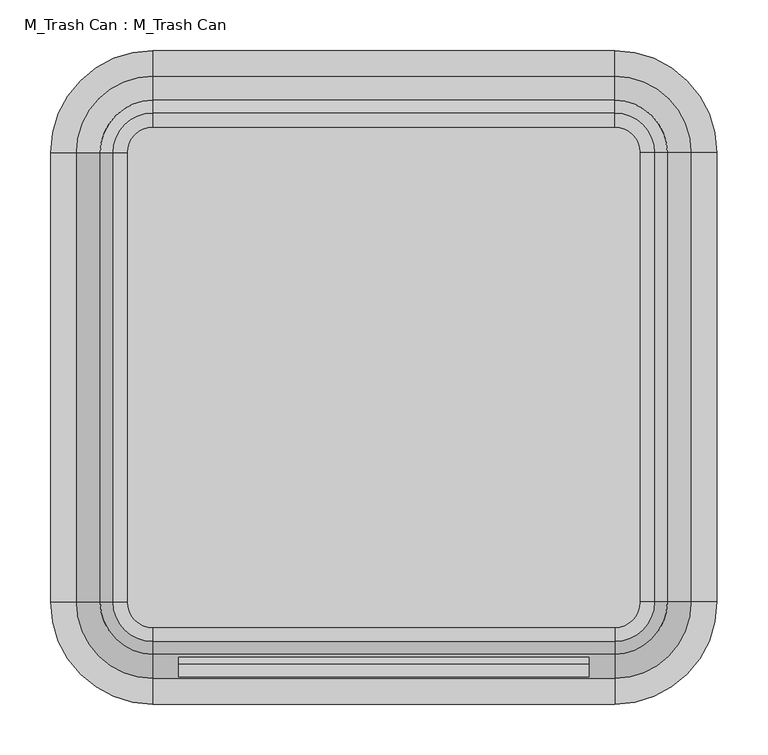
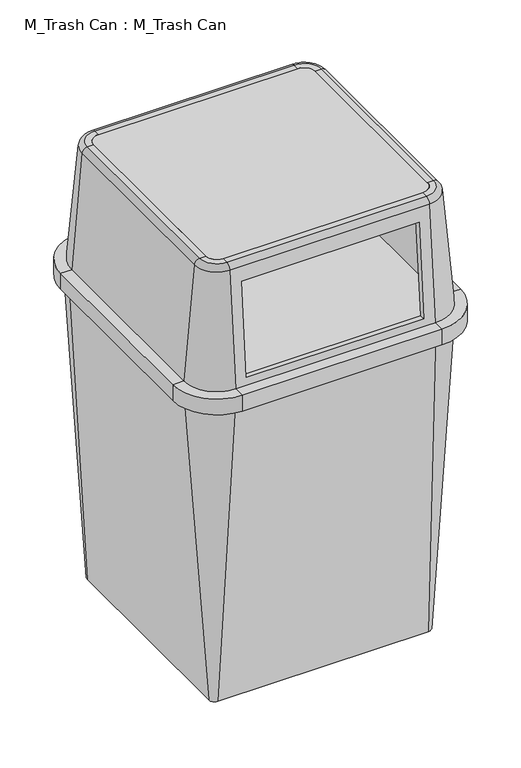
"""IFC4 building model written with IfcOpenShell, lengths in millimetres: geographic element geometry, M_Trash Can : M_Trash Can."""

import ifcopenshell
import ifcopenshell.guid

model = None  # the IFC model being written
_history = None  # IfcOwnerHistory: only IFC2X3 demands one
_inside = {}  # id of a spatial element -> (the spatial element, [elements in it])
_under = {}  # id of a project, library or spatial element -> (it, [spatial elements below it])
_declared = {}  # id of a project -> (the project, [libraries it declares])
_typed = {}  # id of a type object -> (the type object, [elements of that type])
_made_of = {}  # id of a material, layer set ... -> (it, [elements and type objects made of it])


def new_model(schema):
    """Start an empty IFC model of exactly this schema.

    Asked for "IFC4X3", IfcOpenShell would pick the latest addendum, in which some entities
    have other attributes; the version numbers below select the first issue.
    IFC2X3 requires an IfcOwnerHistory on every rooted entity: one is made here for all.
    """
    global model, _history
    if schema == "IFC4X3":
        model = ifcopenshell.file(schema_version=(4, 3, 0, 0))
    else:
        model = ifcopenshell.file(schema=schema)
    _inside.clear()
    _under.clear()
    _declared.clear()
    _typed.clear()
    _made_of.clear()
    _history = None
    if model.schema == "IFC2X3":
        org = make("IfcOrganization", Name="unknown")
        user = make(
            "IfcPersonAndOrganization",
            ThePerson=make("IfcPerson", FamilyName="unknown"),
            TheOrganization=org,
        )
        app = make(
            "IfcApplication",
            ApplicationDeveloper=org,
            Version="unknown",
            ApplicationFullName="unknown",
            ApplicationIdentifier="unknown",
        )
        _history = make(
            "IfcOwnerHistory",
            OwningUser=user,
            OwningApplication=app,
            ChangeAction="ADDED",
            CreationDate=0,
        )
    return model


def make(cls, **values):
    """One entity of the class cls with the attributes given. An attribute that is None is left unset."""
    return model.create_entity(
        cls, **{name: value for name, value in values.items() if value is not None}
    )


def rooted(cls, **values):
    """An entity with a GlobalId (a new one), such as an element, a storey or a relation."""
    return make(cls, GlobalId=ifcopenshell.guid.new(), OwnerHistory=_history, **values)


def si_unit(unit_type, name, prefix=None):
    """IfcSIUnit, for example si_unit("LENGTHUNIT", "METRE", prefix="MILLI")."""
    return make("IfcSIUnit", UnitType=unit_type, Prefix=prefix, Name=name)


def assignment(units):
    """IfcUnitAssignment: the units of a project."""
    return None if units is None else make("IfcUnitAssignment", Units=units)


def point(xyz):
    """IfcCartesianPoint."""
    return None if xyz is None else make("IfcCartesianPoint", Coordinates=xyz)


def direction(xyz):
    """IfcDirection."""
    return None if xyz is None else make("IfcDirection", DirectionRatios=xyz)


def frame(location, z_axis=None, x_axis=None):
    """IfcAxis2Placement3D, a coordinate frame: its origin and axes. An axis left out is left unset."""
    return make(
        "IfcAxis2Placement3D",
        Location=point(location),
        Axis=direction(z_axis),
        RefDirection=direction(x_axis),
    )


def frame_2d(location, x_axis=None):
    """IfcAxis2Placement2D, a coordinate frame in the plane: its origin and x axis."""
    return make(
        "IfcAxis2Placement2D", Location=point(location), RefDirection=direction(x_axis)
    )


def origin():
    """The frame at (0, 0, 0) with its axes left unset."""
    return frame((0.0, 0.0, 0.0))


def place(relative_to, where):
    """IfcLocalPlacement: puts the frame where relative to a parent placement (None: the world)."""
    return make(
        "IfcLocalPlacement", PlacementRelTo=relative_to, RelativePlacement=where
    )


def context(
    kind, dimensions, precision=None, world=None, true_north=None, identifier=None
):
    """IfcGeometricRepresentationContext, for example the 3D "Model" context."""
    return make(
        "IfcGeometricRepresentationContext",
        ContextIdentifier=identifier,
        ContextType=kind,
        CoordinateSpaceDimension=dimensions,
        Precision=precision,
        WorldCoordinateSystem=world,
        TrueNorth=true_north,
    )


def project(units=None, contexts=None):
    """IfcProject with its units and contexts."""
    return rooted(
        "IfcProject",
        Name="project",
        RepresentationContexts=contexts,
        UnitsInContext=assignment(units),
    )


def spatial(cls, under=None, at=None, **own):
    """A site, building, storey or space (cls), placed at a placement, below another one or the project."""
    s = rooted(cls, ObjectPlacement=at, **own)
    if under is not None:
        _under.setdefault(under.id(), (under, []))[1].append(s)
    return s


def polyline(points):
    """IfcPolyline through the points."""
    return make("IfcPolyline", Points=[point(p) for p in points])


def circle_curve(where, radius):
    """IfcCircle in the frame where."""
    return make("IfcCircle", Position=where, Radius=radius)


def ellipse_curve(where, semi_axis1, semi_axis2):
    """IfcEllipse in the frame where."""
    return make(
        "IfcEllipse", Position=where, SemiAxis1=semi_axis1, SemiAxis2=semi_axis2
    )


def trimmed(basis, trim1, trim2, sense, master):
    """IfcTrimmedCurve: the piece of a basis curve between two trims."""
    return make(
        "IfcTrimmedCurve",
        BasisCurve=basis,
        Trim1=trim1,
        Trim2=trim2,
        SenseAgreement=sense,
        MasterRepresentation=master,
    )


def segment(curve, same_sense, transition):
    """IfcCompositeCurveSegment."""
    return make(
        "IfcCompositeCurveSegment",
        Transition=transition,
        SameSense=same_sense,
        ParentCurve=curve,
    )


def composite_curve(segments, self_intersect=None):
    """IfcCompositeCurve: segments joined end to end."""
    return make("IfcCompositeCurve", Segments=segments, SelfIntersect=self_intersect)


def outline(outer, holes=None, kind="AREA"):
    """IfcArbitraryClosedProfileDef: a profile drawn as a closed curve; with holes, ...WithVoids."""
    if holes is None:
        return make("IfcArbitraryClosedProfileDef", ProfileType=kind, OuterCurve=outer)
    return make(
        "IfcArbitraryProfileDefWithVoids",
        ProfileType=kind,
        OuterCurve=outer,
        InnerCurves=holes,
    )


def extrude(swept, where, along, depth):
    """IfcExtrudedAreaSolid: the profile swept, set in the frame where, extruded along a direction by depth."""
    return make(
        "IfcExtrudedAreaSolid",
        SweptArea=swept,
        Position=where,
        ExtrudedDirection=direction(along),
        Depth=depth,
    )


def shape(context_of_items, identifier, shape_type, items):
    """IfcShapeRepresentation: the items that make up one representation, for example the "Body"."""
    return make(
        "IfcShapeRepresentation",
        ContextOfItems=context_of_items,
        RepresentationIdentifier=identifier,
        RepresentationType=shape_type,
        Items=items,
    )


def source(mapping_origin, context_of_items, identifier, shape_type, items):
    """IfcRepresentationMap: a shape defined once, which mapped items show again and again."""
    return make(
        "IfcRepresentationMap",
        MappingOrigin=mapping_origin,
        MappedRepresentation=shape(context_of_items, identifier, shape_type, items),
    )


def transform(
    local_origin,
    x_axis=None,
    y_axis=None,
    z_axis=None,
    scale=None,
    scale2=None,
    scale3=None,
    uniform=True,
):
    """IfcCartesianTransformationOperator3D, or its non-uniform kind. x_axis, y_axis, z_axis: its Axis1, 2, 3."""
    if uniform:
        return make(
            "IfcCartesianTransformationOperator3D",
            Axis1=direction(x_axis),
            Axis2=direction(y_axis),
            LocalOrigin=point(local_origin),
            Scale=scale,
            Axis3=direction(z_axis),
        )
    return make(
        "IfcCartesianTransformationOperator3DnonUniform",
        Axis1=direction(x_axis),
        Axis2=direction(y_axis),
        LocalOrigin=point(local_origin),
        Scale=scale,
        Axis3=direction(z_axis),
        Scale2=scale2,
        Scale3=scale3,
    )


def mapped(mapping_source, mapping_target):
    """IfcMappedItem: shows the shape of a source again, moved by a transform."""
    return make(
        "IfcMappedItem", MappingSource=mapping_source, MappingTarget=mapping_target
    )


def made_of(thing, what):
    """Note that an element or type object is made of a material, layer set ...; save() writes the relation."""
    if what is not None:
        _made_of.setdefault(what.id(), (what, []))[1].append(thing)
    return thing


def element(
    cls,
    number,
    at=None,
    inside=None,
    cuts=None,
    type_object=None,
    material=None,
    context=None,
    identifier="Body",
    shape_type=None,
    held_by="IfcProductDefinitionShape",
    body=None,
    shapes=None,
    **own,
):
    """One element of the class cls, such as IfcWall. Its Tag is "e" and its number.

    at: its placement. inside: the storey or other place that contains it. cuts: it is an
    opening in that element (IfcRelVoidsElement). A single representation is given by context,
    identifier, shape_type and body (its items); several are given by shapes. held_by: the class
    of the entity that holds the representations. save() writes the other relations.
    """
    e = rooted(cls, Tag="e%d" % number, ObjectPlacement=at, **own)
    if body is not None:
        shapes = [shape(context, identifier, shape_type, body)]
    if shapes is not None:
        e.Representation = make(held_by, Representations=shapes)
    if inside is not None:
        _inside.setdefault(inside.id(), (inside, []))[1].append(e)
    if cuts is not None:
        rooted(
            "IfcRelVoidsElement", RelatingBuildingElement=cuts, RelatedOpeningElement=e
        )
    if type_object is not None:
        _typed.setdefault(type_object.id(), (type_object, []))[1].append(e)
    return made_of(e, material)


def aggregate(whole, parts):
    """IfcRelAggregates: a whole, such as a stair, and the parts it consists of."""
    return rooted("IfcRelAggregates", RelatingObject=whole, RelatedObjects=parts)


def save(model, path):
    """Write the relations noted so far, then the file.

    IfcRelAggregates (storeys below a building ...), IfcRelContainedInSpatialStructure (elements
    in a storey), IfcRelDefinesByType, IfcRelAssociatesMaterial and IfcRelDeclares: one each for
    every whole, place, type object, material and project.
    """
    for whole, parts in _under.values():
        aggregate(whole, parts)
    for where, things in _inside.values():
        rooted(
            "IfcRelContainedInSpatialStructure",
            RelatedElements=things,
            RelatingStructure=where,
        )
    for kind, things in _typed.values():
        rooted("IfcRelDefinesByType", RelatedObjects=things, RelatingType=kind)
    for what, things in _made_of.values():
        rooted("IfcRelAssociatesMaterial", RelatedObjects=things, RelatingMaterial=what)
    for by, libraries in _declared.values():
        rooted("IfcRelDeclares", RelatingContext=by, RelatedDefinitions=libraries)
    model.write(path)


def plane_surface(at):
    """IfcPlane: the flat surface through the origin of the frame at, square to its z axis."""
    return make("IfcPlane", Position=at)


def cylinder_surface(at, radius):
    """IfcCylindricalSurface: all points at the distance radius from the z axis of the frame at."""
    return make("IfcCylindricalSurface", Position=at, Radius=radius)


def revolved_surface(curve, axis_point, axis_direction):
    """IfcSurfaceOfRevolution: the curve turned about the line through axis_point along axis_direction."""
    return make(
        "IfcSurfaceOfRevolution",
        SweptCurve=make("IfcArbitraryOpenProfileDef", ProfileType="CURVE", Curve=curve),
        AxisPosition=make("IfcAxis1Placement", Location=point(axis_point), Axis=direction(axis_direction)),
    )


def spline_surface(u_degree, v_degree, points, u_multiplicities, v_multiplicities, u_knots, v_knots, weights=None):
    """IfcBSplineSurfaceWithKnots; with weights, IfcRationalBSplineSurfaceWithKnots. points: one row for each step in u."""
    own = dict(
        UDegree=u_degree,
        VDegree=v_degree,
        ControlPointsList=[[point(p) for p in row] for row in points],
        SurfaceForm="UNSPECIFIED",
        UClosed=False,
        VClosed=False,
        SelfIntersect=False,
        UMultiplicities=u_multiplicities,
        VMultiplicities=v_multiplicities,
        UKnots=u_knots,
        VKnots=v_knots,
        KnotSpec="UNSPECIFIED",
    )
    if weights is None:
        return make("IfcBSplineSurfaceWithKnots", **own)
    return make("IfcRationalBSplineSurfaceWithKnots", WeightsData=weights, **own)


def advanced_brep(points, edges, surfaces, faces):
    """IfcAdvancedBrep: a solid bounded by faces that lie on surfaces and meet in shared edges.

    An edge is (start, end): straight between two places in points (the first is 0);
    or (start, end, curve); or (start, end, curve, False) where it runs against its curve.
    A face is (place in surfaces, loops), or (place, loops, False) where it looks against
    its surface's normal. A loop lists edges by number (the first is 1), with a minus sign
    where the edge is run from its end to its start. The first loop is the outer one.
    """
    corners = [point(p) for p in points]
    vertices = [make("IfcVertexPoint", VertexGeometry=c) for c in corners]
    made = []
    for start, end, *more in edges:
        made.append(
            make(
                "IfcEdgeCurve",
                EdgeStart=vertices[start],
                EdgeEnd=vertices[end],
                EdgeGeometry=more[0] if more else make("IfcPolyline", Points=[corners[start], corners[end]]),
                SameSense=more[1] if len(more) > 1 else True,
            )
        )
    hull = []
    for where, loops, *sense in faces:
        bounds = []
        for j, loop in enumerate(loops):
            ring = [make("IfcOrientedEdge", EdgeElement=made[abs(k) - 1], Orientation=k > 0) for k in loop]
            bounds.append(
                make(
                    "IfcFaceOuterBound" if j == 0 else "IfcFaceBound",
                    Bound=make("IfcEdgeLoop", EdgeList=ring),
                    Orientation=True,
                )
            )
        hull.append(make("IfcAdvancedFace", Bounds=bounds, FaceSurface=surfaces[where], SameSense=sense[0] if sense else True))
    return make("IfcAdvancedBrep", Outer=make("IfcClosedShell", CfsFaces=hull))


def m_trash_can_m_trash_can_952d1acd(model_context):
    return source(origin(), model_context, "Body", "SolidModel", [
        advanced_brep(
        [(-254.0, 215.9, 1066.8), (-228.6, 241.3, 1066.8), (-228.6, 255.0625941, 1066.8), (-267.7625941, 215.9, 1066.8), (-254.0, 215.9, 1054.1), (-228.6, 241.3, 1054.1), (-267.7625941, 215.9, 1054.1), (-228.6, 255.0625941, 1054.1), (-292.6673476, 215.9, 769.437365), (-228.6, 279.9673476, 769.437365), (-317.0047535, 215.9, 769.437365), (-228.6, 304.3047535, 769.437365), (-317.0047535, 215.9, 744.037365), (-228.6, 304.3047535, 744.037365), (-329.7047535, 215.9, 744.037365), (-228.6, 317.0047535, 744.037365), (-329.7047535, 215.9, 782.137365), (-228.6, 317.0047535, 782.137365), (-304.3047535, 215.9, 782.137365), (-228.6, 291.6047535, 782.137365), (-280.4142668, 215.9, 1055.2068779), (-228.6, 267.7142668, 1055.2068779), (-267.7625941, -228.6, 1066.8), (-254.0, -228.6, 1066.8), (-254.0, -228.6, 1054.1), (-267.7625941, -228.6, 1054.1), (-292.6673476, -228.6, 769.437365), (-317.0047535, -228.6, 769.437365), (-317.0047535, -228.6, 744.037365), (-329.7047535, -228.6, 744.037365), (-329.7047535, -228.6, 782.137365), (-304.3047535, -228.6, 782.137365), (-280.4142668, -228.6, 1055.2068779), (-228.6, -267.7625941, 1066.8), (-228.6, -254.0, 1066.8), (-228.6, -254.0, 1054.1), (-228.6, -267.7625941, 1054.1), (-228.6, -292.6673476, 769.437365), (-228.6, -317.0047535, 769.437365), (-228.6, -317.0047535, 744.037365), (-228.6, -329.7047535, 744.037365), (-228.6, -329.7047535, 782.137365), (-228.6, -304.3047535, 782.137365), (-228.6, -280.4142668, 1055.2068779), (228.6, -267.7625941, 1066.8), (228.6, -254.0, 1066.8), (228.6, -254.0, 1054.1), (228.6, -267.7625941, 1054.1), (228.6, -292.6673476, 769.437365), (203.2, -290.0863084, 798.9387774), (203.2, -270.7170435, 1020.3304889), (-203.2, -270.7170435, 1020.3304889), (-203.2, -290.0863084, 798.9387774), (228.6, -317.0047535, 769.437365), (228.6, -317.0047535, 744.037365), (228.6, -329.7047535, 744.037365), (228.6, -329.7047535, 782.137365), (228.6, -304.3047535, 782.137365), (228.6, -280.4142668, 1055.2068779), (203.2, -283.3687161, 1021.4373669), (203.2, -302.7379811, 800.0456554), (-203.2, -302.7379811, 800.0456554), (-203.2, -283.3687161, 1021.4373669), (267.7625941, -228.6, 1066.8), (254.0, -228.6, 1066.8), (254.0, -228.6, 1054.1), (267.7625941, -228.6, 1054.1), (292.6673476, -228.6, 769.437365), (317.0047535, -228.6, 769.437365), (317.0047535, -228.6, 744.037365), (329.7047535, -228.6, 744.037365), (329.7047535, -228.6, 782.137365), (304.3047535, -228.6, 782.137365), (280.4142668, -228.6, 1055.2068779), (267.7625941, 215.9, 1066.8), (254.0, 215.9, 1066.8), (254.0, 215.9, 1054.1), (267.7625941, 215.9, 1054.1), (292.6673476, 215.9, 769.437365), (317.0047535, 215.9, 769.437365), (317.0047535, 215.9, 744.037365), (329.7047535, 215.9, 744.037365), (329.7047535, 215.9, 782.137365), (304.3047535, 215.9, 782.137365), (280.4142668, 215.9, 1055.2068779), (228.6, 255.0625941, 1066.8), (228.6, 241.3, 1066.8), (228.6, 241.3, 1054.1), (228.6, 255.0625941, 1054.1), (228.6, 279.9673476, 769.437365), (228.6, 304.3047535, 769.437365), (228.6, 304.3047535, 744.037365), (228.6, 317.0047535, 744.037365), (228.6, 317.0047535, 782.137365), (228.6, 291.6047535, 782.137365), (228.6, 267.7142668, 1055.2068779)],
        [
            (0, 1, circle_curve(frame((-228.6, 215.9, 1066.8), z_axis=(0.0, 0.0, -1.0), x_axis=(0.0, 1.0, 0.0)), 25.4)),
            (1, 2),
            (2, 3, circle_curve(frame((-228.6, 215.9, 1066.8), z_axis=(0.0, 0.0, 1.0), x_axis=(0.0, 1.0, 0.0)), 39.1625941)),
            (3, 0),
            (0, 4),
            (4, 5, circle_curve(frame((-228.6, 215.9, 1054.1), z_axis=(0.0, 0.0, -1.0), x_axis=(0.0, 1.0, 0.0)), 25.4)),
            (5, 1),
            (4, 6),
            (6, 7, circle_curve(frame((-228.6, 215.9, 1054.1), z_axis=(0.0, 0.0, -1.0), x_axis=(0.0, 1.0, 0.0)), 39.1625941)),
            (7, 5),
            (6, 8),
            (8, 9, circle_curve(frame((-228.6, 215.9, 769.437365), z_axis=(0.0, 0.0, -1.0), x_axis=(0.0, 1.0, 0.0)), 64.0673476)),
            (9, 7),
            (8, 10),
            (10, 11, circle_curve(frame((-228.6, 215.9, 769.437365), z_axis=(0.0, 0.0, -1.0), x_axis=(0.0, 1.0, 0.0)), 88.4047535)),
            (11, 9),
            (10, 12),
            (12, 13, circle_curve(frame((-228.6, 215.9, 744.037365), z_axis=(0.0, 0.0, -1.0), x_axis=(0.0, 1.0, 0.0)), 88.4047535)),
            (13, 11),
            (12, 14),
            (14, 15, circle_curve(frame((-228.6, 215.9, 744.037365), z_axis=(0.0, 0.0, -1.0), x_axis=(0.0, 1.0, 0.0)), 101.1047535)),
            (15, 13),
            (14, 16),
            (16, 17, circle_curve(frame((-228.6, 215.9, 782.137365), z_axis=(0.0, 0.0, -1.0), x_axis=(0.0, 1.0, 0.0)), 101.1047535)),
            (17, 15),
            (16, 18),
            (18, 19, circle_curve(frame((-228.6, 215.9, 782.137365), z_axis=(0.0, 0.0, -1.0), x_axis=(0.0, 1.0, 0.0)), 75.7047535)),
            (19, 17),
            (18, 20),
            (20, 21, circle_curve(frame((-228.6, 215.9, 1055.2068779), z_axis=(0.0, 0.0, -1.0), x_axis=(0.0, 1.0, 0.0)), 51.8142668)),
            (21, 19),
            (2, 21, circle_curve(frame((-228.6, 255.0625941, 1054.1), z_axis=(-1.0, 0.0, 0.0), x_axis=(0.0, -1.0, 0.0)), 12.7)),
            (20, 3, circle_curve(frame((-267.7625941, 215.9, 1054.1), z_axis=(0.0, 1.0, 0.0), x_axis=(1.0, 0.0, 0.0)), 12.7)),
            (3, 22),
            (22, 23),
            (23, 0),
            (23, 24),
            (24, 4),
            (24, 25),
            (25, 6),
            (25, 26),
            (26, 8),
            (26, 27),
            (27, 10),
            (27, 28),
            (28, 12),
            (28, 29),
            (29, 14),
            (29, 30),
            (30, 16),
            (30, 31),
            (31, 18),
            (31, 32),
            (32, 20),
            (32, 22, circle_curve(frame((-267.7625941, -228.6, 1054.1), z_axis=(0.0, 1.0, 0.0), x_axis=(1.0, 0.0, 0.0)), 12.7)),
            (22, 33, circle_curve(frame((-228.6, -228.6, 1066.8), z_axis=(0.0, 0.0, 1.0), x_axis=(-1.0, 0.0, 0.0)), 39.1625941)),
            (33, 34),
            (34, 23, circle_curve(frame((-228.6, -228.6, 1066.8), z_axis=(0.0, 0.0, -1.0), x_axis=(-1.0, 0.0, 0.0)), 25.4)),
            (34, 35),
            (35, 24, circle_curve(frame((-228.6, -228.6, 1054.1), z_axis=(0.0, 0.0, -1.0), x_axis=(-1.0, 0.0, 0.0)), 25.4)),
            (35, 36),
            (36, 25, circle_curve(frame((-228.6, -228.6, 1054.1), z_axis=(0.0, 0.0, -1.0), x_axis=(-1.0, 0.0, 0.0)), 39.1625941)),
            (36, 37),
            (37, 26, circle_curve(frame((-228.6, -228.6, 769.437365), z_axis=(0.0, 0.0, -1.0), x_axis=(-1.0, 0.0, 0.0)), 64.0673476)),
            (37, 38),
            (38, 27, circle_curve(frame((-228.6, -228.6, 769.437365), z_axis=(0.0, 0.0, -1.0), x_axis=(-1.0, 0.0, 0.0)), 88.4047535)),
            (38, 39),
            (39, 28, circle_curve(frame((-228.6, -228.6, 744.037365), z_axis=(0.0, 0.0, -1.0), x_axis=(-1.0, 0.0, 0.0)), 88.4047535)),
            (39, 40),
            (40, 29, circle_curve(frame((-228.6, -228.6, 744.037365), z_axis=(0.0, 0.0, -1.0), x_axis=(-1.0, 0.0, 0.0)), 101.1047535)),
            (40, 41),
            (41, 30, circle_curve(frame((-228.6, -228.6, 782.137365), z_axis=(0.0, 0.0, -1.0), x_axis=(-1.0, 0.0, 0.0)), 101.1047535)),
            (41, 42),
            (42, 31, circle_curve(frame((-228.6, -228.6, 782.137365), z_axis=(0.0, 0.0, -1.0), x_axis=(-1.0, 0.0, 0.0)), 75.7047535)),
            (42, 43),
            (43, 32, circle_curve(frame((-228.6, -228.6, 1055.2068779), z_axis=(0.0, 0.0, -1.0), x_axis=(-1.0, 0.0, 0.0)), 51.8142668)),
            (43, 33, circle_curve(frame((-228.6, -267.7625941, 1054.1), z_axis=(-1.0, 0.0, 0.0), x_axis=(0.0, 1.0, 0.0)), 12.7)),
            (33, 44),
            (44, 45),
            (45, 34),
            (45, 46),
            (46, 35),
            (46, 47),
            (47, 36),
            (47, 48),
            (48, 37),
            (49, 50),
            (50, 51),
            (51, 52),
            (52, 49),
            (48, 53),
            (53, 38),
            (53, 54),
            (54, 39),
            (54, 55),
            (55, 40),
            (55, 56),
            (56, 41),
            (56, 57),
            (57, 42),
            (57, 58),
            (58, 43),
            (59, 60),
            (60, 61),
            (61, 62),
            (62, 59),
            (58, 44, circle_curve(frame((228.6, -267.7625941, 1054.1), z_axis=(-1.0, 0.0, 0.0), x_axis=(0.0, 1.0, 0.0)), 12.7)),
            (44, 63, circle_curve(frame((228.6, -228.6, 1066.8), z_axis=(0.0, 0.0, 1.0), x_axis=(0.0, -1.0, 0.0)), 39.1625941)),
            (63, 64),
            (64, 45, circle_curve(frame((228.6, -228.6, 1066.8), z_axis=(0.0, 0.0, -1.0), x_axis=(0.0, -1.0, 0.0)), 25.4)),
            (64, 65),
            (65, 46, circle_curve(frame((228.6, -228.6, 1054.1), z_axis=(0.0, 0.0, -1.0), x_axis=(0.0, -1.0, 0.0)), 25.4)),
            (65, 66),
            (66, 47, circle_curve(frame((228.6, -228.6, 1054.1), z_axis=(0.0, 0.0, -1.0), x_axis=(0.0, -1.0, 0.0)), 39.1625941)),
            (66, 67),
            (67, 48, circle_curve(frame((228.6, -228.6, 769.437365), z_axis=(0.0, 0.0, -1.0), x_axis=(0.0, -1.0, 0.0)), 64.0673476)),
            (67, 68),
            (68, 53, circle_curve(frame((228.6, -228.6, 769.437365), z_axis=(0.0, 0.0, -1.0), x_axis=(0.0, -1.0, 0.0)), 88.4047535)),
            (68, 69),
            (69, 54, circle_curve(frame((228.6, -228.6, 744.037365), z_axis=(0.0, 0.0, -1.0), x_axis=(0.0, -1.0, 0.0)), 88.4047535)),
            (69, 70),
            (70, 55, circle_curve(frame((228.6, -228.6, 744.037365), z_axis=(0.0, 0.0, -1.0), x_axis=(0.0, -1.0, 0.0)), 101.1047535)),
            (70, 71),
            (71, 56, circle_curve(frame((228.6, -228.6, 782.137365), z_axis=(0.0, 0.0, -1.0), x_axis=(0.0, -1.0, 0.0)), 101.1047535)),
            (71, 72),
            (72, 57, circle_curve(frame((228.6, -228.6, 782.137365), z_axis=(0.0, 0.0, -1.0), x_axis=(0.0, -1.0, 0.0)), 75.7047535)),
            (72, 73),
            (73, 58, circle_curve(frame((228.6, -228.6, 1055.2068779), z_axis=(0.0, 0.0, -1.0), x_axis=(0.0, -1.0, 0.0)), 51.8142668)),
            (73, 63, circle_curve(frame((267.7625941, -228.6, 1054.1), z_axis=(0.0, -1.0, 0.0), x_axis=(-1.0, 0.0, 0.0)), 12.7)),
            (63, 74),
            (74, 75),
            (75, 64),
            (75, 76),
            (76, 65),
            (76, 77),
            (77, 66),
            (77, 78),
            (78, 67),
            (78, 79),
            (79, 68),
            (79, 80),
            (80, 69),
            (80, 81),
            (81, 70),
            (81, 82),
            (82, 71),
            (82, 83),
            (83, 72),
            (83, 84),
            (84, 73),
            (84, 74, circle_curve(frame((267.7625941, 215.9, 1054.1), z_axis=(0.0, -1.0, 0.0), x_axis=(-1.0, 0.0, 0.0)), 12.7)),
            (74, 85, circle_curve(frame((228.6, 215.9, 1066.8), z_axis=(0.0, 0.0, 1.0), x_axis=(1.0, 0.0, 0.0)), 39.1625941)),
            (85, 86),
            (86, 75, circle_curve(frame((228.6, 215.9, 1066.8), z_axis=(0.0, 0.0, -1.0), x_axis=(1.0, 0.0, 0.0)), 25.4)),
            (86, 87),
            (87, 76, circle_curve(frame((228.6, 215.9, 1054.1), z_axis=(0.0, 0.0, -1.0), x_axis=(1.0, 0.0, 0.0)), 25.4)),
            (87, 88),
            (88, 77, circle_curve(frame((228.6, 215.9, 1054.1), z_axis=(0.0, 0.0, -1.0), x_axis=(1.0, 0.0, 0.0)), 39.1625941)),
            (88, 89),
            (89, 78, circle_curve(frame((228.6, 215.9, 769.437365), z_axis=(0.0, 0.0, -1.0), x_axis=(1.0, 0.0, 0.0)), 64.0673476)),
            (89, 90),
            (90, 79, circle_curve(frame((228.6, 215.9, 769.437365), z_axis=(0.0, 0.0, -1.0), x_axis=(1.0, 0.0, 0.0)), 88.4047535)),
            (90, 91),
            (91, 80, circle_curve(frame((228.6, 215.9, 744.037365), z_axis=(0.0, 0.0, -1.0), x_axis=(1.0, 0.0, 0.0)), 88.4047535)),
            (91, 92),
            (92, 81, circle_curve(frame((228.6, 215.9, 744.037365), z_axis=(0.0, 0.0, -1.0), x_axis=(1.0, 0.0, 0.0)), 101.1047535)),
            (92, 93),
            (93, 82, circle_curve(frame((228.6, 215.9, 782.137365), z_axis=(0.0, 0.0, -1.0), x_axis=(1.0, 0.0, 0.0)), 101.1047535)),
            (93, 94),
            (94, 83, circle_curve(frame((228.6, 215.9, 782.137365), z_axis=(0.0, 0.0, -1.0), x_axis=(1.0, 0.0, 0.0)), 75.7047535)),
            (94, 95),
            (95, 84, circle_curve(frame((228.6, 215.9, 1055.2068779), z_axis=(0.0, 0.0, -1.0), x_axis=(1.0, 0.0, 0.0)), 51.8142668)),
            (95, 85, circle_curve(frame((228.6, 255.0625941, 1054.1), z_axis=(1.0, 0.0, 0.0), x_axis=(0.0, -1.0, 0.0)), 12.7)),
            (1, 86),
            (85, 2),
            (5, 87),
            (7, 88),
            (9, 89),
            (11, 90),
            (13, 91),
            (15, 92),
            (17, 93),
            (19, 94),
            (21, 95),
            (59, 50),
            (49, 60),
            (52, 61),
            (51, 62),
        ],
        [
            plane_surface(frame((-228.6, 215.9, 1066.8), z_axis=(0.0, 0.0, 1.0), x_axis=(0.0, 1.0, 0.0))),
            revolved_surface(polyline([(-228.6, 241.3, 1066.8), (-228.6, 241.3, 1054.1)]), (-228.6, 215.9, 0.0), (0.0, 0.0, 1.0)),
            plane_surface(frame((-228.6, 215.9, 1054.1), z_axis=(0.0, 0.0, -1.0), x_axis=(0.0, 1.0, 0.0))),
            revolved_surface(polyline([(-228.6, 255.0625941, 1054.1), (-228.6, 279.9673476, 769.437365)]), (-228.6, 215.9, 0.0), (0.0, 0.0, 1.0)),
            plane_surface(frame((-228.6, 215.9, 769.437365), z_axis=(0.0, 0.0, -1.0), x_axis=(0.0, 1.0, 0.0))),
            revolved_surface(polyline([(-228.6, 304.3047535, 769.437365), (-228.6, 304.3047535, 744.037365)]), (-228.6, 215.9, 0.0), (0.0, 0.0, 1.0)),
            plane_surface(frame((-228.6, 215.9, 744.037365), z_axis=(0.0, 0.0, -1.0), x_axis=(0.0, 1.0, 0.0))),
            cylinder_surface(frame((-228.6, 215.9, 0.0), z_axis=(0.0, 0.0, 1.0), x_axis=(0.0, 1.0, 0.0)), 101.1047535),
            plane_surface(frame((-228.6, 215.9, 782.137365), z_axis=(0.0, 0.0, 1.0), x_axis=(0.0, 1.0, 0.0))),
            revolved_surface(polyline([(-228.6, 291.6047535, 782.137365), (-228.6, 267.7142668, 1055.2068779)]), (-228.6, 215.9, 0.0), (0.0, 0.0, 1.0)),
            revolved_surface(trimmed(ellipse_curve(frame((-228.6, 255.0625941, 1054.1), z_axis=(1.0, 0.0, 0.0), x_axis=(0.0, -1.0, 0.0)), 12.7, 12.7), [point((-228.6, 267.7142668, 1055.2068779))], [point((-228.6, 255.0625941, 1066.8))], True, "CARTESIAN"), (-228.6, 215.9, 0.0), (0.0, 0.0, 1.0)),
            plane_surface(frame((-267.7625941, 215.9, 1066.8), z_axis=(0.0, 0.0, 1.0), x_axis=(0.0, -1.0, 0.0))),
            plane_surface(frame((-254.0, 215.9, 1066.8), z_axis=(1.0, 0.0, 0.0), x_axis=(0.0, -1.0, 0.0))),
            plane_surface(frame((-254.0, 215.9, 1054.1), z_axis=(0.0, 0.0, -1.0), x_axis=(0.0, -1.0, 0.0))),
            plane_surface(frame((-267.7625941, 215.9, 1054.1), z_axis=(0.9961946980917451, 0.0, -0.08715574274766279), x_axis=(0.0, -1.0, 0.0))),
            plane_surface(frame((-292.6673476, 215.9, 769.437365), z_axis=(0.0, 0.0, -1.0), x_axis=(0.0, -1.0, 0.0))),
            plane_surface(frame((-317.0047535, 215.9, 769.437365), z_axis=(1.0, 0.0, 0.0), x_axis=(0.0, -1.0, 0.0))),
            plane_surface(frame((-317.0047535, 215.9, 744.037365), z_axis=(0.0, 0.0, -1.0), x_axis=(0.0, -1.0, 0.0))),
            plane_surface(frame((-329.7047535, 215.9, 744.037365), z_axis=(-1.0, 0.0, 0.0), x_axis=(0.0, -1.0, 0.0))),
            plane_surface(frame((-329.7047535, 215.9, 782.137365), z_axis=(0.0, 0.0, 1.0), x_axis=(0.0, -1.0, 0.0))),
            plane_surface(frame((-304.3047535, 215.9, 782.137365), z_axis=(-0.9961946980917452, 0.0, 0.08715574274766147), x_axis=(0.0, -1.0, 0.0))),
            cylinder_surface(frame((-267.7625941, 215.9, 1054.1), z_axis=(0.0, 1.0, 0.0), x_axis=(1.0, 0.0, 0.0)), 12.7),
            plane_surface(frame((-228.6, -228.6, 1066.8), z_axis=(0.0, 0.0, 1.0), x_axis=(-1.0, 0.0, 0.0))),
            revolved_surface(polyline([(-254.0, -228.6, 1066.8), (-254.0, -228.6, 1054.1)]), (-228.6, -228.6, 0.0), (0.0, 0.0, 1.0)),
            plane_surface(frame((-228.6, -228.6, 1054.1), z_axis=(0.0, 0.0, -1.0), x_axis=(-1.0, 0.0, 0.0))),
            revolved_surface(polyline([(-267.7625941, -228.6, 1054.1), (-292.6673476, -228.6, 769.437365)]), (-228.6, -228.6, 0.0), (0.0, 0.0, 1.0)),
            plane_surface(frame((-228.6, -228.6, 769.437365), z_axis=(0.0, 0.0, -1.0), x_axis=(-1.0, 0.0, 0.0))),
            revolved_surface(polyline([(-317.0047535, -228.6, 769.437365), (-317.0047535, -228.6, 744.037365)]), (-228.6, -228.6, 0.0), (0.0, 0.0, 1.0)),
            plane_surface(frame((-228.6, -228.6, 744.037365), z_axis=(0.0, 0.0, -1.0), x_axis=(-1.0, 0.0, 0.0))),
            cylinder_surface(frame((-228.6, -228.6, 0.0), z_axis=(0.0, 0.0, 1.0), x_axis=(-1.0, 0.0, 0.0)), 101.1047535),
            plane_surface(frame((-228.6, -228.6, 782.137365), z_axis=(0.0, 0.0, 1.0), x_axis=(-1.0, 0.0, 0.0))),
            revolved_surface(polyline([(-304.3047535, -228.6, 782.137365), (-280.4142668, -228.6, 1055.2068779)]), (-228.6, -228.6, 0.0), (0.0, 0.0, 1.0)),
            revolved_surface(trimmed(ellipse_curve(frame((-267.7625941, -228.6, 1054.1), z_axis=(0.0, 1.0, 0.0), x_axis=(1.0, 0.0, 0.0)), 12.7, 12.7), [point((-280.4142668, -228.6, 1055.2068779))], [point((-267.7625941, -228.6, 1066.8))], True, "CARTESIAN"), (-228.6, -228.6, 0.0), (0.0, 0.0, 1.0)),
            plane_surface(frame((-228.6, -267.7625941, 1066.8), z_axis=(0.0, 0.0, 1.0), x_axis=(1.0, 0.0, 0.0))),
            plane_surface(frame((-228.6, -254.0, 1066.8), z_axis=(0.0, 1.0, 0.0), x_axis=(1.0, 0.0, 0.0))),
            plane_surface(frame((-228.6, -254.0, 1054.1), z_axis=(0.0, 0.0, -1.0), x_axis=(1.0, 0.0, 0.0))),
            plane_surface(frame((-228.6, -267.7625941, 1054.1), z_axis=(0.0, 0.9961946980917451, -0.08715574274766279), x_axis=(1.0, 0.0, 0.0))),
            plane_surface(frame((-228.6, -292.6673476, 769.437365), z_axis=(0.0, 0.0, -1.0), x_axis=(1.0, 0.0, 0.0))),
            plane_surface(frame((-228.6, -317.0047535, 769.437365), z_axis=(0.0, 1.0, 0.0), x_axis=(1.0, 0.0, 0.0))),
            plane_surface(frame((-228.6, -317.0047535, 744.037365), z_axis=(0.0, 0.0, -1.0), x_axis=(1.0, 0.0, 0.0))),
            plane_surface(frame((-228.6, -329.7047535, 744.037365), z_axis=(0.0, -1.0, 0.0), x_axis=(1.0, 0.0, 0.0))),
            plane_surface(frame((-228.6, -329.7047535, 782.137365), z_axis=(0.0, 0.0, 1.0), x_axis=(1.0, 0.0, 0.0))),
            plane_surface(frame((-228.6, -304.3047535, 782.137365), z_axis=(0.0, -0.9961946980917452, 0.08715574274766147), x_axis=(1.0, 0.0, 0.0))),
            cylinder_surface(frame((-228.6, -267.7625941, 1054.1), z_axis=(-1.0, 0.0, 0.0), x_axis=(0.0, 1.0, 0.0)), 12.7),
            plane_surface(frame((228.6, -228.6, 1066.8), z_axis=(0.0, 0.0, 1.0), x_axis=(0.0, -1.0, 0.0))),
            revolved_surface(polyline([(228.6, -254.0, 1066.8), (228.6, -254.0, 1054.1)]), (228.6, -228.6, 0.0), (0.0, 0.0, 1.0)),
            plane_surface(frame((228.6, -228.6, 1054.1), z_axis=(0.0, 0.0, -1.0), x_axis=(0.0, -1.0, 0.0))),
            revolved_surface(polyline([(228.6, -267.7625941, 1054.1), (228.6, -292.6673476, 769.437365)]), (228.6, -228.6, 0.0), (0.0, 0.0, 1.0)),
            plane_surface(frame((228.6, -228.6, 769.437365), z_axis=(0.0, 0.0, -1.0), x_axis=(0.0, -1.0, 0.0))),
            revolved_surface(polyline([(228.6, -317.0047535, 769.437365), (228.6, -317.0047535, 744.037365)]), (228.6, -228.6, 0.0), (0.0, 0.0, 1.0)),
            plane_surface(frame((228.6, -228.6, 744.037365), z_axis=(0.0, 0.0, -1.0), x_axis=(0.0, -1.0, 0.0))),
            cylinder_surface(frame((228.6, -228.6, 0.0), z_axis=(0.0, 0.0, 1.0), x_axis=(0.0, -1.0, 0.0)), 101.1047535),
            plane_surface(frame((228.6, -228.6, 782.137365), z_axis=(0.0, 0.0, 1.0), x_axis=(0.0, -1.0, 0.0))),
            revolved_surface(polyline([(228.6, -304.3047535, 782.137365), (228.6, -280.4142668, 1055.2068779)]), (228.6, -228.6, 0.0), (0.0, 0.0, 1.0)),
            revolved_surface(trimmed(ellipse_curve(frame((228.6, -267.7625941, 1054.1), z_axis=(-1.0, 0.0, 0.0), x_axis=(0.0, 1.0, 0.0)), 12.7, 12.7), [point((228.6, -280.4142668, 1055.2068779))], [point((228.6, -267.7625941, 1066.8))], True, "CARTESIAN"), (228.6, -228.6, 0.0), (0.0, 0.0, 1.0)),
            plane_surface(frame((267.7625941, -228.6, 1066.8), z_axis=(0.0, 0.0, 1.0), x_axis=(0.0, 1.0, 0.0))),
            plane_surface(frame((254.0, -228.6, 1066.8), z_axis=(-1.0, 0.0, 0.0), x_axis=(0.0, 1.0, 0.0))),
            plane_surface(frame((254.0, -228.6, 1054.1), z_axis=(0.0, 0.0, -1.0), x_axis=(0.0, 1.0, 0.0))),
            plane_surface(frame((267.7625941, -228.6, 1054.1), z_axis=(-0.9961946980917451, 0.0, -0.08715574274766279), x_axis=(0.0, 1.0, 0.0))),
            plane_surface(frame((292.6673476, -228.6, 769.437365), z_axis=(0.0, 0.0, -1.0), x_axis=(0.0, 1.0, 0.0))),
            plane_surface(frame((317.0047535, -228.6, 769.437365), z_axis=(-1.0, 0.0, 0.0), x_axis=(0.0, 1.0, 0.0))),
            plane_surface(frame((317.0047535, -228.6, 744.037365), z_axis=(0.0, 0.0, -1.0), x_axis=(0.0, 1.0, 0.0))),
            plane_surface(frame((329.7047535, -228.6, 744.037365), z_axis=(1.0, 0.0, 0.0), x_axis=(0.0, 1.0, 0.0))),
            plane_surface(frame((329.7047535, -228.6, 782.137365), z_axis=(0.0, 0.0, 1.0), x_axis=(0.0, 1.0, 0.0))),
            plane_surface(frame((304.3047535, -228.6, 782.137365), z_axis=(0.9961946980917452, 0.0, 0.08715574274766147), x_axis=(0.0, 1.0, 0.0))),
            cylinder_surface(frame((267.7625941, -228.6, 1054.1), z_axis=(0.0, -1.0, 0.0), x_axis=(-1.0, 0.0, 0.0)), 12.7),
            plane_surface(frame((228.6, 215.9, 1066.8), z_axis=(0.0, 0.0, 1.0), x_axis=(1.0, 0.0, 0.0))),
            revolved_surface(polyline([(254.0, 215.9, 1066.8), (254.0, 215.9, 1054.1)]), (228.6, 215.9, 0.0), (0.0, 0.0, 1.0)),
            plane_surface(frame((228.6, 215.9, 1054.1), z_axis=(0.0, 0.0, -1.0), x_axis=(1.0, 0.0, 0.0))),
            revolved_surface(polyline([(267.7625941, 215.9, 1054.1), (292.6673476, 215.9, 769.437365)]), (228.6, 215.9, 0.0), (0.0, 0.0, 1.0)),
            plane_surface(frame((228.6, 215.9, 769.437365), z_axis=(0.0, 0.0, -1.0), x_axis=(1.0, 0.0, 0.0))),
            revolved_surface(polyline([(317.0047535, 215.9, 769.437365), (317.0047535, 215.9, 744.037365)]), (228.6, 215.9, 0.0), (0.0, 0.0, 1.0)),
            plane_surface(frame((228.6, 215.9, 744.037365), z_axis=(0.0, 0.0, -1.0), x_axis=(1.0, 0.0, 0.0))),
            cylinder_surface(frame((228.6, 215.9, 0.0), z_axis=(0.0, 0.0, 1.0), x_axis=(1.0, 0.0, 0.0)), 101.1047535),
            plane_surface(frame((228.6, 215.9, 782.137365), z_axis=(0.0, 0.0, 1.0), x_axis=(1.0, 0.0, 0.0))),
            revolved_surface(polyline([(304.3047535, 215.9, 782.137365), (280.4142668, 215.9, 1055.2068779)]), (228.6, 215.9, 0.0), (0.0, 0.0, 1.0)),
            revolved_surface(trimmed(ellipse_curve(frame((267.7625941, 215.9, 1054.1), z_axis=(0.0, -1.0, 0.0), x_axis=(-1.0, 0.0, 0.0)), 12.7, 12.7), [point((280.4142668, 215.9, 1055.2068779))], [point((267.7625941, 215.9, 1066.8))], True, "CARTESIAN"), (228.6, 215.9, 0.0), (0.0, 0.0, 1.0)),
            plane_surface(frame((228.6, 255.0625941, 1066.8), z_axis=(0.0, 0.0, 1.0), x_axis=(-1.0, 0.0, 0.0))),
            plane_surface(frame((228.6, 241.3, 1066.8), z_axis=(0.0, -1.0, 0.0), x_axis=(-1.0, 0.0, 0.0))),
            plane_surface(frame((228.6, 241.3, 1054.1), z_axis=(0.0, 0.0, -1.0), x_axis=(-1.0, 0.0, 0.0))),
            plane_surface(frame((228.6, 255.0625941, 1054.1), z_axis=(0.0, -0.9961946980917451, -0.08715574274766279), x_axis=(-1.0, 0.0, 0.0))),
            plane_surface(frame((228.6, 279.9673476, 769.437365), z_axis=(0.0, 0.0, -1.0), x_axis=(-1.0, 0.0, 0.0))),
            plane_surface(frame((228.6, 304.3047535, 769.437365), z_axis=(0.0, -1.0, 0.0), x_axis=(-1.0, 0.0, 0.0))),
            plane_surface(frame((228.6, 304.3047535, 744.037365), z_axis=(0.0, 0.0, -1.0), x_axis=(-1.0, 0.0, 0.0))),
            plane_surface(frame((228.6, 317.0047535, 744.037365), z_axis=(0.0, 1.0, 0.0), x_axis=(-1.0, 0.0, 0.0))),
            plane_surface(frame((228.6, 317.0047535, 782.137365), z_axis=(0.0, 0.0, 1.0), x_axis=(-1.0, 0.0, 0.0))),
            plane_surface(frame((228.6, 291.6047535, 782.137365), z_axis=(0.0, 0.9961946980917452, 0.08715574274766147), x_axis=(-1.0, 0.0, 0.0))),
            cylinder_surface(frame((228.6, 255.0625941, 1054.1), z_axis=(1.0, 0.0, 0.0), x_axis=(0.0, -1.0, 0.0)), 12.7),
            plane_surface(frame((203.2, -213.4252032, 1015.3181024), z_axis=(-1.0, 0.0, 0.0), x_axis=(0.0, -0.9961946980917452, 0.08715574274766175))),
            plane_surface(frame((203.2, -232.7944681, 793.9263909), z_axis=(0.0, 0.08715574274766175, 0.9961946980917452), x_axis=(0.0, -0.9961946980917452, 0.08715574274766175))),
            plane_surface(frame((-203.2, -232.7944681, 793.9263909), z_axis=(1.0, 0.0, 0.0), x_axis=(0.0, -0.9961946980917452, 0.08715574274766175))),
            plane_surface(frame((-203.2, -213.4252032, 1015.3181024), z_axis=(0.0, -0.08715574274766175, -0.9961946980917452), x_axis=(0.0, -0.9961946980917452, 0.08715574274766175))),
        ],
        [
            (0, [[1, 2, 3, 4]]),
            (1, [[-1, 5, 6, 7]]),
            (2, [[-6, 8, 9, 10]]),
            (3, [[-9, 11, 12, 13]]),
            (4, [[-12, 14, 15, 16]]),
            (5, [[-15, 17, 18, 19]]),
            (6, [[-18, 20, 21, 22]]),
            (7, [[-21, 23, 24, 25]]),
            (8, [[-24, 26, 27, 28]]),
            (9, [[-27, 29, 30, 31]]),
            (10, [[-3, 32, -30, 33]]),
            (11, [[-4, 34, 35, 36]]),
            (12, [[-5, -36, 37, 38]]),
            (13, [[-8, -38, 39, 40]]),
            (14, [[-11, -40, 41, 42]]),
            (15, [[-14, -42, 43, 44]]),
            (16, [[-17, -44, 45, 46]]),
            (17, [[-20, -46, 47, 48]]),
            (18, [[-23, -48, 49, 50]]),
            (19, [[-26, -50, 51, 52]]),
            (20, [[-29, -52, 53, 54]]),
            (21, [[-33, -54, 55, -34]]),
            (22, [[-35, 56, 57, 58]]),
            (23, [[-37, -58, 59, 60]]),
            (24, [[-39, -60, 61, 62]]),
            (25, [[-41, -62, 63, 64]]),
            (26, [[-43, -64, 65, 66]]),
            (27, [[-45, -66, 67, 68]]),
            (28, [[-47, -68, 69, 70]]),
            (29, [[-49, -70, 71, 72]]),
            (30, [[-51, -72, 73, 74]]),
            (31, [[-53, -74, 75, 76]]),
            (32, [[-55, -76, 77, -56]]),
            (33, [[-57, 78, 79, 80]]),
            (34, [[-59, -80, 81, 82]]),
            (35, [[-61, -82, 83, 84]]),
            (36, [[-63, -84, 85, 86], [87, 88, 89, 90]]),
            (37, [[-65, -86, 91, 92]]),
            (38, [[-67, -92, 93, 94]]),
            (39, [[-69, -94, 95, 96]]),
            (40, [[-71, -96, 97, 98]]),
            (41, [[-73, -98, 99, 100]]),
            (42, [[-75, -100, 101, 102], [103, 104, 105, 106]]),
            (43, [[-77, -102, 107, -78]]),
            (44, [[-79, 108, 109, 110]]),
            (45, [[-81, -110, 111, 112]]),
            (46, [[-83, -112, 113, 114]]),
            (47, [[-85, -114, 115, 116]]),
            (48, [[-91, -116, 117, 118]]),
            (49, [[-93, -118, 119, 120]]),
            (50, [[-95, -120, 121, 122]]),
            (51, [[-97, -122, 123, 124]]),
            (52, [[-99, -124, 125, 126]]),
            (53, [[-101, -126, 127, 128]]),
            (54, [[-107, -128, 129, -108]]),
            (55, [[-109, 130, 131, 132]]),
            (56, [[-111, -132, 133, 134]]),
            (57, [[-113, -134, 135, 136]]),
            (58, [[-115, -136, 137, 138]]),
            (59, [[-117, -138, 139, 140]]),
            (60, [[-119, -140, 141, 142]]),
            (61, [[-121, -142, 143, 144]]),
            (62, [[-123, -144, 145, 146]]),
            (63, [[-125, -146, 147, 148]]),
            (64, [[-127, -148, 149, 150]]),
            (65, [[-129, -150, 151, -130]]),
            (66, [[-131, 152, 153, 154]]),
            (67, [[-133, -154, 155, 156]]),
            (68, [[-135, -156, 157, 158]]),
            (69, [[-137, -158, 159, 160]]),
            (70, [[-139, -160, 161, 162]]),
            (71, [[-141, -162, 163, 164]]),
            (72, [[-143, -164, 165, 166]]),
            (73, [[-145, -166, 167, 168]]),
            (74, [[-147, -168, 169, 170]]),
            (75, [[-149, -170, 171, 172]]),
            (76, [[-151, -172, 173, -152]]),
            (77, [[-2, 174, -153, 175]]),
            (78, [[-7, 176, -155, -174]]),
            (79, [[-10, 177, -157, -176]]),
            (80, [[-13, 178, -159, -177]]),
            (81, [[-16, 179, -161, -178]]),
            (82, [[-19, 180, -163, -179]]),
            (83, [[-22, 181, -165, -180]]),
            (84, [[-25, 182, -167, -181]]),
            (85, [[-28, 183, -169, -182]]),
            (86, [[-31, 184, -171, -183]]),
            (87, [[-32, -175, -173, -184]]),
            (88, [[185, -87, 186, -103]]),
            (89, [[-186, -90, 187, -104]]),
            (90, [[-187, -89, 188, -105]]),
            (91, [[-185, -106, -188, -88]]),
        ],
    ),
        extrude(outline(composite_curve([segment(trimmed(circle_curve(frame_2d((241.3, 228.6)), 12.7), [point((241.3, 241.3))], [point((254.0, 228.6))], False, "CARTESIAN"), True, "CONTINUOUS"), segment(polyline([(254.0, 228.6), (254.0, -228.6)]), True, "CONTINUOUS"), segment(trimmed(circle_curve(frame_2d((228.6, -228.6)), 25.4), [point((254.0, -228.6))], [point((228.6, -254.0))], False, "CARTESIAN"), True, "CONTINUOUS"), segment(polyline([(228.6, -254.0), (-228.6, -254.0)]), True, "CONTINUOUS"), segment(trimmed(circle_curve(frame_2d((-228.6, -228.6)), 25.4), [point((-228.6, -254.0))], [point((-254.0, -228.6))], False, "CARTESIAN"), True, "CONTINUOUS"), segment(polyline([(-254.0, -228.6), (-254.0, 215.9)]), True, "CONTINUOUS"), segment(trimmed(circle_curve(frame_2d((-228.6, 215.9)), 25.4), [point((-254.0, 215.9))], [point((-228.6, 241.3))], False, "CARTESIAN"), True, "CONTINUOUS"), segment(polyline([(-228.6, 241.3), (241.3, 241.3)]), True, "CONTINUOUS")], self_intersect=False)), frame((0.0, 0.0, 1054.1), z_axis=(0.0, 0.0, 1.0), x_axis=(1.0, 0.0, 0.0)), (0.0, 0.0, 1.0), 12.7),
        advanced_brep(
        [(228.6, 304.8, 762.0), (-228.6, 304.8, 762.0), (-304.8, 228.6, 762.0), (-304.8, -228.6, 762.0), (-228.6, -304.8, 762.0), (228.6, -304.8, 762.0), (304.8, -228.6, 762.0), (304.8, 228.6, 762.0), (241.3, 254.0, 0.0), (254.0, 241.3, 0.0), (254.0, -241.3, 0.0), (241.3, -254.0, 0.0), (-241.3, -254.0, 0.0), (-254.0, -241.3, 0.0), (-254.0, 241.3, 0.0), (-241.3, 254.0, 0.0)],
        [
            (0, 1),
            (1, 2, circle_curve(frame((-228.6, 228.6, 762.0), z_axis=(0.0, 0.0, 1.0), x_axis=(1.0, 0.0, 0.0)), 76.2)),
            (2, 3),
            (3, 4, circle_curve(frame((-228.6, -228.6, 762.0), z_axis=(0.0, 0.0, 1.0), x_axis=(1.0, 0.0, 0.0)), 76.2)),
            (4, 5),
            (5, 6, circle_curve(frame((228.6, -228.6, 762.0), z_axis=(0.0, 0.0, 1.0), x_axis=(1.0, 0.0, 0.0)), 76.2)),
            (6, 7),
            (7, 0, circle_curve(frame((228.6, 228.6, 762.0), z_axis=(0.0, 0.0, 1.0), x_axis=(1.0, 0.0, 0.0)), 76.2)),
            (8, 9, circle_curve(frame((241.3, 241.3, 0.0), z_axis=(0.0, 0.0, -1.0), x_axis=(1.0, 0.0, 0.0)), 12.7)),
            (9, 10),
            (10, 11, circle_curve(frame((241.3, -241.3, 0.0), z_axis=(0.0, 0.0, -1.0), x_axis=(1.0, 0.0, 0.0)), 12.7)),
            (11, 12),
            (12, 13, circle_curve(frame((-241.3, -241.3, 0.0), z_axis=(0.0, 0.0, -1.0), x_axis=(1.0, 0.0, 0.0)), 12.7)),
            (13, 14),
            (14, 15, circle_curve(frame((-241.3, 241.3, 0.0), z_axis=(0.0, 0.0, -1.0), x_axis=(1.0, 0.0, 0.0)), 12.7)),
            (15, 8),
            (15, 1),
            (0, 8),
            (14, 2),
            (13, 3),
            (12, 4),
            (11, 5),
            (10, 6),
            (9, 7),
        ],
        [
            plane_surface(frame((0.0, 0.0, 762.0), z_axis=(0.0, 0.0, 1.0), x_axis=(-1.0, 0.0, 0.0))),
            plane_surface(frame((0.0, 0.0, 0.0), z_axis=(0.0, 0.0, -1.0), x_axis=(-1.0, 0.0, 0.0))),
            plane_surface(frame((0.0, 254.0, 0.0), z_axis=(0.0, 0.9977851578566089, -0.0665190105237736), x_axis=(-1.0, 0.0, 0.0))),
            spline_surface(2, 1, [[(-241.3, 254.0, 0.0), (-228.6, 304.8, 762.0)], [(-254.0, 254.0, 0.0), (-304.8, 304.8, 762.0)], [(-254.0, 241.3, 0.0), (-304.8, 228.6, 762.0)]], [3, 3], [2, 2], [0.0, 1.0], [0.0, 1.0], weights=[[1.0, 1.0], [0.7071067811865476, 0.7071067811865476], [1.0, 1.0]]),
            plane_surface(frame((-254.0, 0.0, 0.0), z_axis=(-0.9977851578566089, 0.0, -0.06651901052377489), x_axis=(0.0, -1.0, 0.0))),
            spline_surface(2, 1, [[(-254.0, -241.3, 0.0), (-304.8, -228.6, 762.0)], [(-254.0, -254.0, 0.0), (-304.8, -304.8, 762.0)], [(-241.3, -254.0, 0.0), (-228.6, -304.8, 762.0)]], [3, 3], [2, 2], [0.0, 1.0], [0.0, 1.0], weights=[[1.0, 1.0], [0.7071067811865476, 0.7071067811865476], [1.0, 1.0]]),
            plane_surface(frame((0.0, -254.0, 0.0), z_axis=(0.0, -0.9977851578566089, -0.06651901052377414), x_axis=(1.0, 0.0, 0.0))),
            spline_surface(2, 1, [[(241.3, -254.0, 0.0), (228.6, -304.8, 762.0)], [(254.0, -254.0, 0.0), (304.8, -304.8, 762.0)], [(254.0, -241.3, 0.0), (304.8, -228.6, 762.0)]], [3, 3], [2, 2], [0.0, 1.0], [0.0, 1.0], weights=[[1.0, 1.0], [0.7071067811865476, 0.7071067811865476], [1.0, 1.0]]),
            plane_surface(frame((254.0, 0.0, 0.0), z_axis=(0.9977851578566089, 0.0, -0.0665190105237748), x_axis=(0.0, 1.0, 0.0))),
            spline_surface(2, 1, [[(254.0, 241.3, 0.0), (304.8, 228.6, 762.0)], [(254.0, 254.0, 0.0), (304.8, 304.8, 762.0)], [(241.3, 254.0, 0.0), (228.6, 304.8, 762.0)]], [3, 3], [2, 2], [0.0, 1.0], [0.0, 1.0], weights=[[1.0, 1.0], [0.7071067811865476, 0.7071067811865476], [1.0, 1.0]]),
        ],
        [
            (0, [[1, 2, 3, 4, 5, 6, 7, 8]]),
            (1, [[9, 10, 11, 12, 13, 14, 15, 16]]),
            (2, [[-16, 17, -1, 18]]),
            (3, [[-15, 19, -2, -17]]),
            (4, [[-14, 20, -3, -19]]),
            (5, [[-13, 21, -4, -20]]),
            (6, [[-12, 22, -5, -21]]),
            (7, [[-11, 23, -6, -22]]),
            (8, [[-10, 24, -7, -23]]),
            (9, [[-9, -18, -8, -24]]),
        ],
    ),
    ])


if __name__ == "__main__":
    model = new_model("IFC4")
    model_context = context("Model", 3, world=origin())
    ifc_project = project(units=[si_unit("LENGTHUNIT", "METRE", prefix="MILLI")], contexts=[model_context])
    site = spatial("IfcSite", under=ifc_project)
    building = spatial("IfcBuilding", under=site)
    placement = place(None, origin())
    m_trash_can_m_trash_can_shape = m_trash_can_m_trash_can_952d1acd(model_context)
    element("IfcGeographicElement", 1, ObjectType="M_Trash Can : M_Trash Can", at=placement, inside=building, context=model_context, shape_type="MappedRepresentation", body=[
        mapped(m_trash_can_m_trash_can_shape, transform((0.0, 0.0, 0.0), x_axis=(1.0, 0.0, 0.0), y_axis=(0.0, 1.0, 0.0), z_axis=(0.0, 0.0, 1.0))),
    ])
    save(model, "model.ifc")
